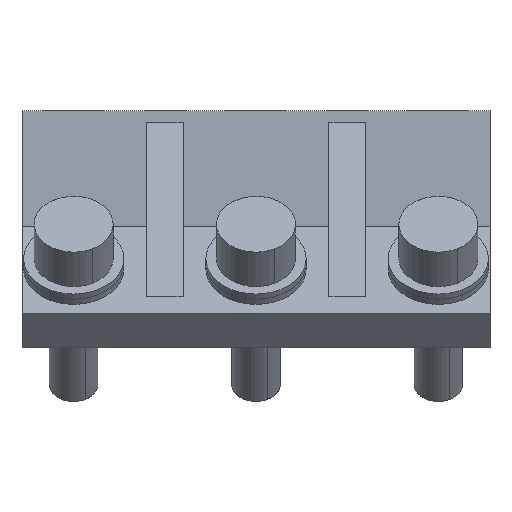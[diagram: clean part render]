
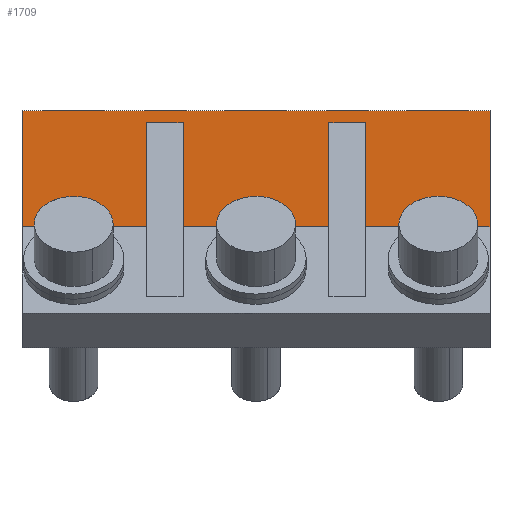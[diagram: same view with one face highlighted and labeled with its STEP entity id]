
A CAD part, front view. The second image highlights one B-rep face of the part: STEP entity #1709.
In plain terms, the highlighted planar face has unit normal (0, -1, 0).
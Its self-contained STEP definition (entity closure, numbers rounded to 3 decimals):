
#1632=AXIS2_PLACEMENT_3D('Plane Axis2P3D',#1629,#1630,#1631) ;
#348=CARTESIAN_POINT('Vertex',(31.,-27.,60.)) ;
#351=CARTESIAN_POINT('Line Origine',(31.,-27.,50.441)) ;
#355=CARTESIAN_POINT('Vertex',(31.,-27.,40.882)) ;
#513=CARTESIAN_POINT('Vertex',(-46.,-27.,40.882)) ;
#516=CARTESIAN_POINT('Line Origine',(-46.,-27.,40.5)) ;
#520=CARTESIAN_POINT('Vertex',(-46.,-27.,60.)) ;
#610=CARTESIAN_POINT('Line Origine',(-7.5,-27.,60.)) ;
#1629=CARTESIAN_POINT('Axis2P3D Location',(0.,-27.,60.)) ;
#1634=CARTESIAN_POINT('Line Origine',(4.5,-27.,49.441)) ;
#1638=CARTESIAN_POINT('Vertex',(4.5,-27.,40.882)) ;
#1640=CARTESIAN_POINT('Vertex',(4.5,-27.,58.)) ;
#1643=CARTESIAN_POINT('Line Origine',(7.5,-27.,58.)) ;
#1647=CARTESIAN_POINT('Vertex',(10.5,-27.,58.)) ;
#1650=CARTESIAN_POINT('Line Origine',(10.5,-27.,49.441)) ;
#1654=CARTESIAN_POINT('Vertex',(10.5,-27.,40.882)) ;
#1657=CARTESIAN_POINT('Line Origine',(20.75,-27.,40.882)) ;
#1662=CARTESIAN_POINT('Line Origine',(-35.75,-27.,40.882)) ;
#1666=CARTESIAN_POINT('Vertex',(-25.5,-27.,40.882)) ;
#1669=CARTESIAN_POINT('Line Origine',(-25.5,-27.,49.441)) ;
#1673=CARTESIAN_POINT('Vertex',(-25.5,-27.,58.)) ;
#1676=CARTESIAN_POINT('Line Origine',(-22.5,-27.,58.)) ;
#1680=CARTESIAN_POINT('Vertex',(-19.5,-27.,58.)) ;
#1683=CARTESIAN_POINT('Line Origine',(-19.5,-27.,49.441)) ;
#1687=CARTESIAN_POINT('Vertex',(-19.5,-27.,40.882)) ;
#1690=CARTESIAN_POINT('Line Origine',(-7.5,-27.,40.882)) ;
#352=DIRECTION('Vector Direction',(0.,0.,-1.)) ;
#517=DIRECTION('Vector Direction',(0.,0.,1.)) ;
#611=DIRECTION('Vector Direction',(-1.,0.,0.)) ;
#1630=DIRECTION('Axis2P3D Direction',(0.,1.,0.)) ;
#1631=DIRECTION('Axis2P3D XDirection',(0.,0.,-1.)) ;
#1635=DIRECTION('Vector Direction',(0.,0.,-1.)) ;
#1644=DIRECTION('Vector Direction',(1.,0.,0.)) ;
#1651=DIRECTION('Vector Direction',(0.,0.,-1.)) ;
#1658=DIRECTION('Vector Direction',(-1.,0.,0.)) ;
#1663=DIRECTION('Vector Direction',(-1.,0.,0.)) ;
#1670=DIRECTION('Vector Direction',(0.,0.,-1.)) ;
#1677=DIRECTION('Vector Direction',(1.,0.,0.)) ;
#1684=DIRECTION('Vector Direction',(0.,0.,-1.)) ;
#1691=DIRECTION('Vector Direction',(-1.,0.,0.)) ;
#353=VECTOR('Line Direction',#352,1.) ;
#518=VECTOR('Line Direction',#517,1.) ;
#612=VECTOR('Line Direction',#611,1.) ;
#1636=VECTOR('Line Direction',#1635,1.) ;
#1645=VECTOR('Line Direction',#1644,1.) ;
#1652=VECTOR('Line Direction',#1651,1.) ;
#1659=VECTOR('Line Direction',#1658,1.) ;
#1664=VECTOR('Line Direction',#1663,1.) ;
#1671=VECTOR('Line Direction',#1670,1.) ;
#1678=VECTOR('Line Direction',#1677,1.) ;
#1685=VECTOR('Line Direction',#1684,1.) ;
#1692=VECTOR('Line Direction',#1691,1.) ;
#1696=ORIENTED_EDGE('',*,*,#1642,.T.) ;
#1697=ORIENTED_EDGE('',*,*,#1649,.T.) ;
#1698=ORIENTED_EDGE('',*,*,#1656,.F.) ;
#1699=ORIENTED_EDGE('',*,*,#1661,.F.) ;
#1700=ORIENTED_EDGE('',*,*,#357,.F.) ;
#1701=ORIENTED_EDGE('',*,*,#614,.T.) ;
#1702=ORIENTED_EDGE('',*,*,#522,.T.) ;
#1703=ORIENTED_EDGE('',*,*,#1668,.F.) ;
#1704=ORIENTED_EDGE('',*,*,#1675,.T.) ;
#1705=ORIENTED_EDGE('',*,*,#1682,.T.) ;
#1706=ORIENTED_EDGE('',*,*,#1689,.F.) ;
#1707=ORIENTED_EDGE('',*,*,#1694,.F.) ;
#1709=ADVANCED_FACE('EGT245_FLACHANB_SW80_KURZ',(#1708),#1633,.F.) ;
#357=EDGE_CURVE('',#349,#356,#354,.T.) ;
#522=EDGE_CURVE('',#521,#514,#519,.F.) ;
#614=EDGE_CURVE('',#349,#521,#613,.T.) ;
#1642=EDGE_CURVE('',#1639,#1641,#1637,.F.) ;
#1649=EDGE_CURVE('',#1641,#1648,#1646,.T.) ;
#1656=EDGE_CURVE('',#1655,#1648,#1653,.F.) ;
#1661=EDGE_CURVE('',#356,#1655,#1660,.T.) ;
#1668=EDGE_CURVE('',#1667,#514,#1665,.T.) ;
#1675=EDGE_CURVE('',#1667,#1674,#1672,.F.) ;
#1682=EDGE_CURVE('',#1674,#1681,#1679,.T.) ;
#1689=EDGE_CURVE('',#1688,#1681,#1686,.F.) ;
#1694=EDGE_CURVE('',#1639,#1688,#1693,.T.) ;
#1695=EDGE_LOOP('',(#1696,#1697,#1698,#1699,#1700,#1701,#1702,#1703,#1704,#1705,#1706,#1707)) ;
#1708=FACE_OUTER_BOUND('',#1695,.T.) ;
#354=LINE('Line',#351,#353) ;
#519=LINE('Line',#516,#518) ;
#613=LINE('Line',#610,#612) ;
#1637=LINE('Line',#1634,#1636) ;
#1646=LINE('Line',#1643,#1645) ;
#1653=LINE('Line',#1650,#1652) ;
#1660=LINE('Line',#1657,#1659) ;
#1665=LINE('Line',#1662,#1664) ;
#1672=LINE('Line',#1669,#1671) ;
#1679=LINE('Line',#1676,#1678) ;
#1686=LINE('Line',#1683,#1685) ;
#1693=LINE('Line',#1690,#1692) ;
#1633=PLANE('',#1632) ;
#349=VERTEX_POINT('',#348) ;
#356=VERTEX_POINT('',#355) ;
#514=VERTEX_POINT('',#513) ;
#521=VERTEX_POINT('',#520) ;
#1639=VERTEX_POINT('',#1638) ;
#1641=VERTEX_POINT('',#1640) ;
#1648=VERTEX_POINT('',#1647) ;
#1655=VERTEX_POINT('',#1654) ;
#1667=VERTEX_POINT('',#1666) ;
#1674=VERTEX_POINT('',#1673) ;
#1681=VERTEX_POINT('',#1680) ;
#1688=VERTEX_POINT('',#1687) ;
